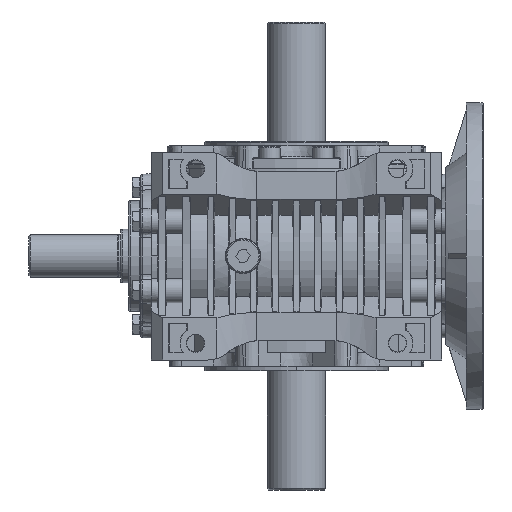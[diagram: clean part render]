
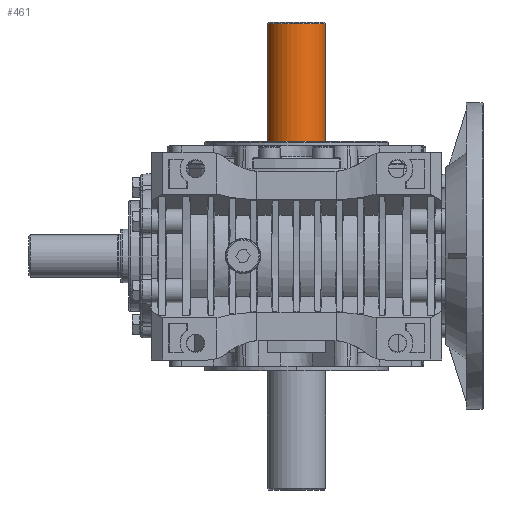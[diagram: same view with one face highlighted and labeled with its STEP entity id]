
A CAD part, front view. The second image highlights one B-rep face of the part: STEP entity #461.
In plain terms, the highlighted cylindrical face has radius 19 mm (diameter 38 mm), a partial arc.
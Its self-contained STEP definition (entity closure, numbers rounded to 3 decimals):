
#461 = ADVANCED_FACE ( 'NONE', ( #112151 ), #95446, .T. ) ;
#2258 = CARTESIAN_POINT ( 'NONE',  ( 19., 0., 152. ) ) ;
#11799 = ORIENTED_EDGE ( 'NONE', *, *, #20441, .T. ) ;
#14203 = VERTEX_POINT ( 'NONE', #87534 ) ;
#16731 = DIRECTION ( 'NONE',  ( 0., 0., -1. ) ) ;
#16973 = ORIENTED_EDGE ( 'NONE', *, *, #110167, .F. ) ;
#17475 = AXIS2_PLACEMENT_3D ( 'NONE', #34503, #69529, #104082 ) ;
#18160 = DIRECTION ( 'NONE',  ( 1., 0., 0. ) ) ;
#19064 = CARTESIAN_POINT ( 'NONE',  ( 0., 0., 72.85 ) ) ;
#20441 = EDGE_CURVE ( 'NONE', #39203, #76751, #101436, .T. ) ;
#24315 = CIRCLE ( 'NONE', #42666, 19. ) ;
#27356 = CARTESIAN_POINT ( 'NONE',  ( 0., 0., 152. ) ) ;
#34503 = CARTESIAN_POINT ( 'NONE',  ( 0., 0., 153. ) ) ;
#37935 = CARTESIAN_POINT ( 'NONE',  ( 19., 0., 153. ) ) ;
#38765 = EDGE_CURVE ( 'NONE', #103630, #14203, #24315, .T. ) ;
#39203 = VERTEX_POINT ( 'NONE', #2258 ) ;
#39626 = VECTOR ( 'NONE', #16731, 1000. ) ;
#42666 = AXIS2_PLACEMENT_3D ( 'NONE', #19064, #63857, #82266 ) ;
#42999 = CARTESIAN_POINT ( 'NONE',  ( -19., 0., 152. ) ) ;
#55177 = DIRECTION ( 'NONE',  ( 0., 0., -1. ) ) ;
#59839 = LINE ( 'NONE', #69024, #39626 ) ;
#60974 = AXIS2_PLACEMENT_3D ( 'NONE', #27356, #80759, #18160 ) ;
#63847 = ORIENTED_EDGE ( 'NONE', *, *, #106539, .T. ) ;
#63857 = DIRECTION ( 'NONE',  ( 0., 0., 1. ) ) ;
#68258 = EDGE_LOOP ( 'NONE', ( #16973, #11799, #63847, #77916 ) ) ;
#69024 = CARTESIAN_POINT ( 'NONE',  ( -19., 0., 153. ) ) ;
#69529 = DIRECTION ( 'NONE',  ( 0., 0., -1. ) ) ;
#71523 = CARTESIAN_POINT ( 'NONE',  ( -19., 0., 72.85 ) ) ;
#76751 = VERTEX_POINT ( 'NONE', #42999 ) ;
#76853 = VECTOR ( 'NONE', #55177, 1000. ) ;
#77916 = ORIENTED_EDGE ( 'NONE', *, *, #38765, .T. ) ;
#80759 = DIRECTION ( 'NONE',  ( 0., 0., -1. ) ) ;
#82266 = DIRECTION ( 'NONE',  ( 1., 0., 0. ) ) ;
#87534 = CARTESIAN_POINT ( 'NONE',  ( 19., 0., 72.85 ) ) ;
#90850 = LINE ( 'NONE', #37935, #76853 ) ;
#95446 = CYLINDRICAL_SURFACE ( 'NONE', #17475, 19. ) ;
#101436 = CIRCLE ( 'NONE', #60974, 19. ) ;
#103630 = VERTEX_POINT ( 'NONE', #71523 ) ;
#104082 = DIRECTION ( 'NONE',  ( -1., 0., 0. ) ) ;
#106539 = EDGE_CURVE ( 'NONE', #76751, #103630, #59839, .T. ) ;
#110167 = EDGE_CURVE ( 'NONE', #39203, #14203, #90850, .T. ) ;
#112151 = FACE_OUTER_BOUND ( 'NONE', #68258, .T. ) ;
